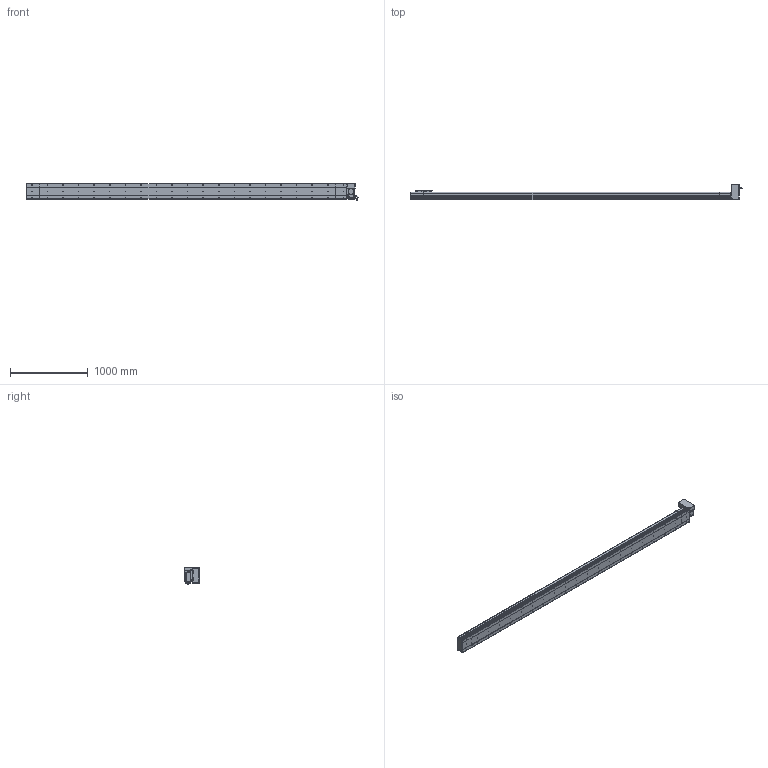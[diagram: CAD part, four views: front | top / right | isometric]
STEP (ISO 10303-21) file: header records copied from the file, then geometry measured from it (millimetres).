
FILE_DESCRIPTION (( 'STEP AP214' ), '1' );
FILE_NAME ('D20 CBH LT S3800.STEP', '2010-06-30T11:12:05', ( 'Conseil Régional Haute-Normandie' ), ( 'Conseil Régional Haute-Normandie' ), 'SwSTEP 2.0', 'SolidWorks 2010', '' );
FILE_SCHEMA (( 'AUTOMOTIVE_DESIGN' ));
Length unit declared in the file: millimetre
Products named in the file (31): vis M5 L15_Default; Rondelle Cache D20 LT_Default; Support moteur LT_Default; Cache Support Moteur LT_Default; avant 90BLDC125A-640; Plaque de Bout Tail D20_Default; Couvercle_Default; Corp Tail D20_Default; Tail D20_Default; Chariot D20_Default; Support Chariot D20_Default; Couvercle S3800_Default; Corp S3800_Default; Corp D20 S3800_Default; Plaque De Serrage D20_Default; vis M5 L47_Default; vis M5 L30_Default; ecrou_Default; corps 90BLDC125A-640; Glissiere_Default; Moteur motionking 90BLDC125A-640; codeur 90BLDC125-640; Conecteur_Default; Conecteur2_Default; Plaque de Bout Head D20 LT_Default; Couvercle LT_Default; Plaque De Serrage D20 LT_Default; Corp Tail D20 LT_Default; Head LT_Default; D20 CBH LT S3800
Assembly tree (66 placements, depth 4):
  D20 CBH LT S3800
    Chariot D20_Default
      Support Chariot D20_Default
      vis M5 L15_Default  x8
      Chariot D20_Default
      Glissiere_Default
    Corp D20 S3800_Default
      Corp S3800_Default
      Couvercle S3800_Default
    Head LT_Default
      Moteur motionking 90BLDC125A-640
        codeur 90BLDC125-640
        Conecteur_Default
        avant 90BLDC125A-640
        Conecteur2_Default
        corps 90BLDC125A-640
      Plaque de Bout Head D20 LT_Default
      vis M5 L47_Default  x4
      vis M5 L15_Default  x12
      ecrou_Default  x4
      vis M5 L30_Default  x4
      Couvercle LT_Default
      Cache Support Moteur LT_Default
      Rondelle Cache D20 LT_Default  x3
      Corp Tail D20 LT_Default
      Plaque De Serrage D20 LT_Default
      Support moteur LT_Default
    Tail D20_Default
      vis M5 L15_Default  x6
      Plaque de Bout Tail D20_Default
      Couvercle_Default
      Plaque De Serrage D20_Default
      Corp Tail D20_Default
Bounding box: 4263.45 x 202.5 x 229.7 mm (x, y, z)
Volume: 28218964.8 mm3; surface area: 5398920 mm2
Topology: 103 solids, 103 shells, 3864 faces, 9638 edges, 6268 vertices
Faces by surface type: plane 2125, bspline 806, cylinder 770, torus 91, cone 68, sphere 4
Entity records: 163030 total; most frequent: CARTESIAN_POINT 83614, ORIENTED_EDGE 15744, DIRECTION 12096, EDGE_CURVE 7872, VERTEX_POINT 5212, VECTOR 5000, LINE 5000, AXIS2_PLACEMENT_3D 3548
